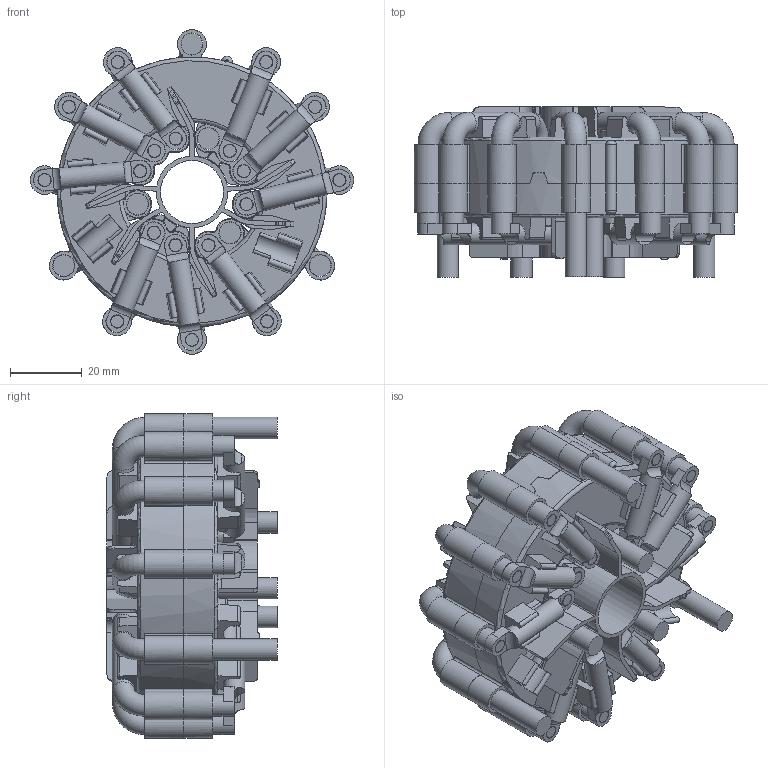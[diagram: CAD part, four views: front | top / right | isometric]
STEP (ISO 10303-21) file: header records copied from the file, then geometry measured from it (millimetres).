
FILE_DESCRIPTION(/* description */ (''),/* implementation_level */ '2;1');
FILE_NAME(/* name */ 'K30778_Baugruppe.stp',/* time_stamp */ '2026-02-11T09:45:39+01:00',/* author */ ('DE041100'),/* organization */ (''),/* preprocessor_version */ 'ST-DEVELOPER v20.1',/* originating_system */ 'Autodesk Inventor 2026',/* authorisation */ '');
FILE_SCHEMA (('AUTOMOTIVE_DESIGN { 1 0 10303 214 3 1 1 }'));
Length unit declared in the file: millimetre
Products named in the file (1): K30777_Multiversion_Baugruppe_Vereinfachen_6
Bounding box: 90.32 x 47.5 x 90.65 mm (x, y, z)
Volume: 132868.8 mm3; surface area: 72533.5 mm2
Topology: 1 solids, 1 shells, 1374 faces, 3745 edges, 2408 vertices
Faces by surface type: plane 661, cylinder 548, torus 84, cone 66, bspline 15
Full cylindrical faces by diameter (mm): 3.5 x18, 3.7 x18, 6 x45, 6.2 x44, 17.6 x1, 74.2 x2
Entity records: 47144 total; most frequent: CARTESIAN_POINT 9567, DIRECTION 8073, ORIENTED_EDGE 7490, EDGE_CURVE 3745, AXIS2_PLACEMENT_3D 3162, VERTEX_POINT 2408, CIRCLE 1783, LINE 1749
